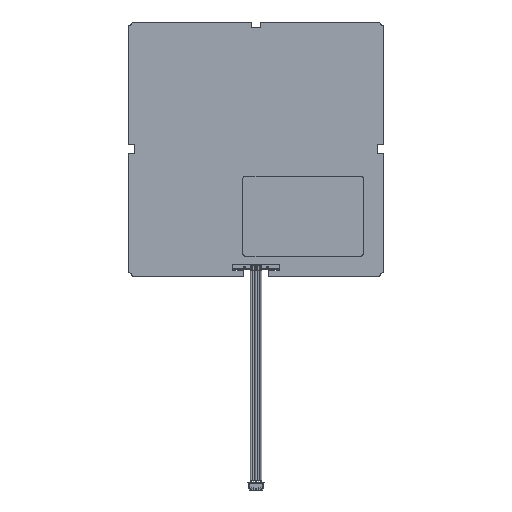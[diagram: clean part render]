
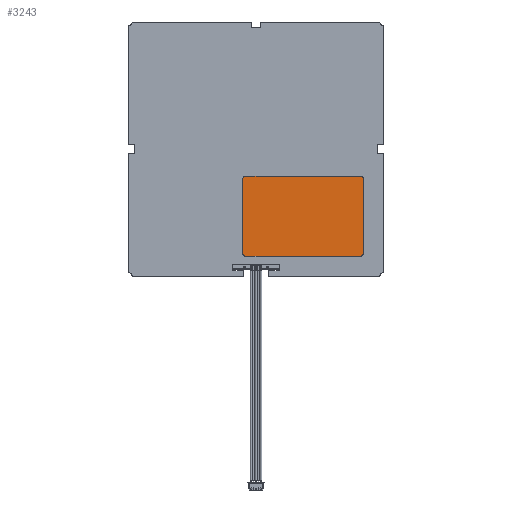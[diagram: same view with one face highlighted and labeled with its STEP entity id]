
A CAD part, front view. The second image highlights one B-rep face of the part: STEP entity #3243.
In plain terms, the highlighted planar face has unit normal (0, -1, 0) as drawn and (0, 1, 0) by its records, which use the part's own axes.
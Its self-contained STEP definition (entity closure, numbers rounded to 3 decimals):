
#27 = CIRCLE ( 'NONE', #22398, 1. ) ;
#771 = EDGE_CURVE ( 'NONE', #3167, #4320, #1089, .T. ) ;
#1089 = CIRCLE ( 'NONE', #9679, 1. ) ;
#1416 = DIRECTION ( 'NONE',  ( -1., 0., 0. ) ) ;
#1423 = DIRECTION ( 'NONE',  ( 0., 0., 1. ) ) ;
#1498 = AXIS2_PLACEMENT_3D ( 'NONE', #22988, #12121, #1423 ) ;
#2338 = PLANE ( 'NONE',  #8973 ) ;
#2390 = ORIENTED_EDGE ( 'NONE', *, *, #7817, .T. ) ;
#2638 = VERTEX_POINT ( 'NONE', #16027 ) ;
#2645 = ORIENTED_EDGE ( 'NONE', *, *, #13194, .T. ) ;
#2661 = ORIENTED_EDGE ( 'NONE', *, *, #10927, .T. ) ;
#2707 = CARTESIAN_POINT ( 'NONE',  ( 29., 0.1, -20. ) ) ;
#2951 = DIRECTION ( 'NONE',  ( 0., 0., -1. ) ) ;
#3042 = VERTEX_POINT ( 'NONE', #21086 ) ;
#3167 = VERTEX_POINT ( 'NONE', #4330 ) ;
#3243 = ADVANCED_FACE ( 'NONE', ( #6234 ), #2338, .T. ) ;
#3776 = VERTEX_POINT ( 'NONE', #18587 ) ;
#4086 = VECTOR ( 'NONE', #12405, 1000. ) ;
#4320 = VERTEX_POINT ( 'NONE', #7606 ) ;
#4330 = CARTESIAN_POINT ( 'NONE',  ( 29., 0.1, 20. ) ) ;
#5705 = EDGE_CURVE ( 'NONE', #19096, #3776, #27, .T. ) ;
#6234 = FACE_OUTER_BOUND ( 'NONE', #7880, .T. ) ;
#6269 = DIRECTION ( 'NONE',  ( 0., 1., 0. ) ) ;
#7606 = CARTESIAN_POINT ( 'NONE',  ( 30., 0.1, 19. ) ) ;
#7817 = EDGE_CURVE ( 'NONE', #3042, #19096, #18433, .T. ) ;
#7880 = EDGE_LOOP ( 'NONE', ( #2645, #14796, #13188, #2661, #15221, #16007, #2390, #14320 ) ) ;
#8023 = VECTOR ( 'NONE', #17876, 1000. ) ;
#8702 = CARTESIAN_POINT ( 'NONE',  ( 29., 0.1, 19. ) ) ;
#8747 = CARTESIAN_POINT ( 'NONE',  ( -30., 0.1, -20. ) ) ;
#8845 = CARTESIAN_POINT ( 'NONE',  ( -29., 0.1, -19. ) ) ;
#8973 = AXIS2_PLACEMENT_3D ( 'NONE', #22627, #11771, #15217 ) ;
#9550 = VERTEX_POINT ( 'NONE', #2707 ) ;
#9679 = AXIS2_PLACEMENT_3D ( 'NONE', #8702, #6269, #13119 ) ;
#10678 = DIRECTION ( 'NONE',  ( 0., 0., 1. ) ) ;
#10927 = EDGE_CURVE ( 'NONE', #2638, #9550, #15748, .T. ) ;
#11077 = DIRECTION ( 'NONE',  ( 0., 0., 1. ) ) ;
#11406 = CARTESIAN_POINT ( 'NONE',  ( -29., 0.1, 19. ) ) ;
#11459 = DIRECTION ( 'NONE',  ( 0., 1., 0. ) ) ;
#11771 = DIRECTION ( 'NONE',  ( 0., 1., 0. ) ) ;
#12116 = CARTESIAN_POINT ( 'NONE',  ( -30., 0.1, -20. ) ) ;
#12121 = DIRECTION ( 'NONE',  ( 0., 1., 0. ) ) ;
#12336 = VERTEX_POINT ( 'NONE', #13122 ) ;
#12405 = DIRECTION ( 'NONE',  ( 0., 0., 1. ) ) ;
#12835 = LINE ( 'NONE', #16046, #8023 ) ;
#13119 = DIRECTION ( 'NONE',  ( 0., 0., 1. ) ) ;
#13122 = CARTESIAN_POINT ( 'NONE',  ( -29., 0.1, -20. ) ) ;
#13188 = ORIENTED_EDGE ( 'NONE', *, *, #20196, .T. ) ;
#13194 = EDGE_CURVE ( 'NONE', #3776, #3167, #12835, .T. ) ;
#13359 = VECTOR ( 'NONE', #2951, 1000. ) ;
#14320 = ORIENTED_EDGE ( 'NONE', *, *, #5705, .T. ) ;
#14796 = ORIENTED_EDGE ( 'NONE', *, *, #771, .T. ) ;
#15217 = DIRECTION ( 'NONE',  ( 0., 0., 1. ) ) ;
#15221 = ORIENTED_EDGE ( 'NONE', *, *, #16910, .T. ) ;
#15748 = CIRCLE ( 'NONE', #1498, 1. ) ;
#16007 = ORIENTED_EDGE ( 'NONE', *, *, #20028, .T. ) ;
#16027 = CARTESIAN_POINT ( 'NONE',  ( 30., 0.1, -19. ) ) ;
#16046 = CARTESIAN_POINT ( 'NONE',  ( -30., 0.1, 20. ) ) ;
#16910 = EDGE_CURVE ( 'NONE', #9550, #12336, #17977, .T. ) ;
#17876 = DIRECTION ( 'NONE',  ( 1., 0., 0. ) ) ;
#17977 = LINE ( 'NONE', #12116, #19116 ) ;
#18165 = LINE ( 'NONE', #20858, #13359 ) ;
#18433 = LINE ( 'NONE', #8747, #4086 ) ;
#18587 = CARTESIAN_POINT ( 'NONE',  ( -29., 0.1, 20. ) ) ;
#19096 = VERTEX_POINT ( 'NONE', #22046 ) ;
#19116 = VECTOR ( 'NONE', #1416, 1000. ) ;
#20028 = EDGE_CURVE ( 'NONE', #12336, #3042, #21572, .T. ) ;
#20196 = EDGE_CURVE ( 'NONE', #4320, #2638, #18165, .T. ) ;
#20712 = AXIS2_PLACEMENT_3D ( 'NONE', #8845, #21521, #10678 ) ;
#20858 = CARTESIAN_POINT ( 'NONE',  ( 30., 0.1, -20. ) ) ;
#21086 = CARTESIAN_POINT ( 'NONE',  ( -30., 0.1, -19. ) ) ;
#21521 = DIRECTION ( 'NONE',  ( 0., 1., 0. ) ) ;
#21572 = CIRCLE ( 'NONE', #20712, 1. ) ;
#22046 = CARTESIAN_POINT ( 'NONE',  ( -30., 0.1, 19. ) ) ;
#22398 = AXIS2_PLACEMENT_3D ( 'NONE', #11406, #11459, #11077 ) ;
#22627 = CARTESIAN_POINT ( 'NONE',  ( 0., 0.1, 0. ) ) ;
#22988 = CARTESIAN_POINT ( 'NONE',  ( 29., 0.1, -19. ) ) ;
